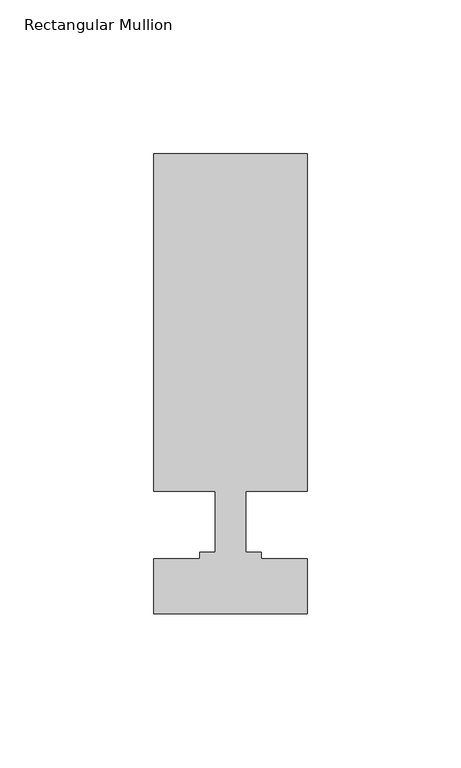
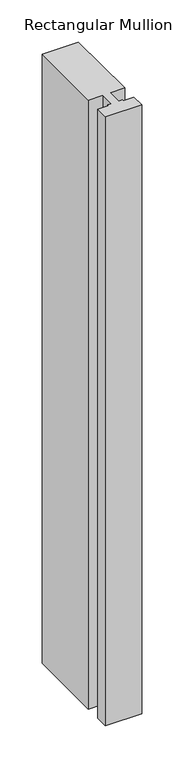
"""IFC4 building model written with IfcOpenShell, lengths in millimetres: member geometry, Rectangular Mullion : TR_CW_¸ALU_internal."""

from ifc_helpers import new_model, si_unit, frame, origin, place, context, project, spatial, polyline, outline, extrude, source, transform, mapped, element, save


def rectangular_mullion_d7cd8770(model_context):
    return source(origin(), model_context, "Body", "SweptSolid", [
        extrude(outline(polyline([(25.0, 0.0), (-25.0, 0.0), (-25.0, 18.0204111), (-10.0, 18.0204111), (-10.0, 20.0), (-5.0, 20.0), (-5.0, 40.0), (-25.0, 40.0), (-25.0, 149.8096073), (25.0, 149.8096073), (25.0, 40.0), (5.0, 40.0), (5.0, 20.0), (10.0, 20.0), (10.0, 18.0204111), (25.0, 18.0204111), (25.0, 0.0)])), frame((0.0, 0.0, -884.0), z_axis=(0.0, 0.0, 1.0), x_axis=(1.0, 0.0, 0.0)), (0.0, 0.0, 1.0), 884.0),
    ])


if __name__ == "__main__":
    model = new_model("IFC4")
    model_context = context("Model", 3, world=origin())
    ifc_project = project(units=[si_unit("LENGTHUNIT", "METRE", prefix="MILLI")], contexts=[model_context])
    site = spatial("IfcSite", under=ifc_project)
    building = spatial("IfcBuilding", under=site)
    placement = place(None, origin())
    rectangular_mullion_shape = rectangular_mullion_d7cd8770(model_context)
    element("IfcMember", 1, ObjectType="Rectangular Mullion : TR_CW_¸ALU_internal", at=placement, inside=building, context=model_context, shape_type="MappedRepresentation", body=[
        mapped(rectangular_mullion_shape, transform((0.0, 0.0, 0.0), x_axis=(1.0, 0.0, 0.0), y_axis=(0.0, 1.0, 0.0), z_axis=(0.0, 0.0, 1.0))),
    ])
    save(model, "model.ifc")
